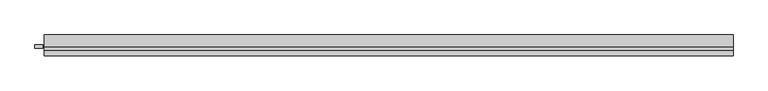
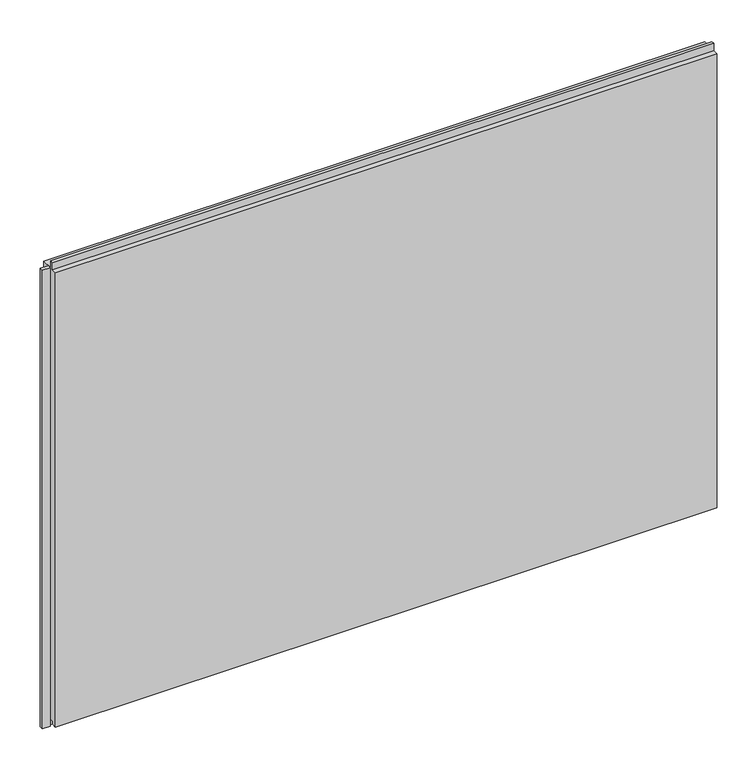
"""IFC4 building model written with IfcOpenShell, lengths in millimetres: plate geometry, Trimo_Qbiss Screen_Normal Panel-HORIZONTAL : HR - FB."""

from ifc_helpers import new_model, si_unit, frame, origin, place, context, project, spatial, polyline, outline, extrude, source, transform, mapped, element, save


def plate_20576bf5(model_context):
    return source(origin(), model_context, "Body", "SweptSolid", [
        extrude(outline(polyline([(-840.5, 76.5978162), (-840.5, 67.8978162), (-859.5, 67.8978162), (-859.5, 76.5978162), (-840.5, 76.5978162)])), frame((0.0, 0.0, -1.0), z_axis=(0.0, 0.0, 1.0), x_axis=(1.0, 0.0, 0.0)), (0.0, 0.0, 1.0), 1200.0),
        extrude(outline(polyline([(71.0, 1196.0), (100.0, 1196.0), (100.0, 0.0), (72.0, 0.0), (72.0, 15.5), (62.0, 15.5), (62.0, 7.0), (50.0, 7.0), (50.0, 1196.0), (63.0, 1196.0), (63.0, 1214.5), (71.0, 1214.5), (71.0, 1196.0)])), frame((-837.5, 0.0, 0.0), z_axis=(1.0, 0.0, 0.0), x_axis=(0.0, 1.0, 0.0)), (0.0, 0.0, 1.0), 1637.5),
    ])


if __name__ == "__main__":
    model = new_model("IFC4")
    model_context = context("Model", 3, world=origin())
    ifc_project = project(units=[si_unit("LENGTHUNIT", "METRE", prefix="MILLI")], contexts=[model_context])
    site = spatial("IfcSite", under=ifc_project)
    building = spatial("IfcBuilding", under=site)
    placement = place(None, origin())
    plate_shape = plate_20576bf5(model_context)
    element("IfcPlate", 1, ObjectType="Trimo_Qbiss Screen_Normal Panel-HORIZONTAL : HR - FB", at=placement, inside=building, context=model_context, shape_type="MappedRepresentation", body=[
        mapped(plate_shape, transform((0.0, 0.0, 0.0), x_axis=(1.0, 0.0, 0.0), y_axis=(0.0, 1.0, 0.0), z_axis=(0.0, 0.0, 1.0))),
    ])
    save(model, "model.ifc")
